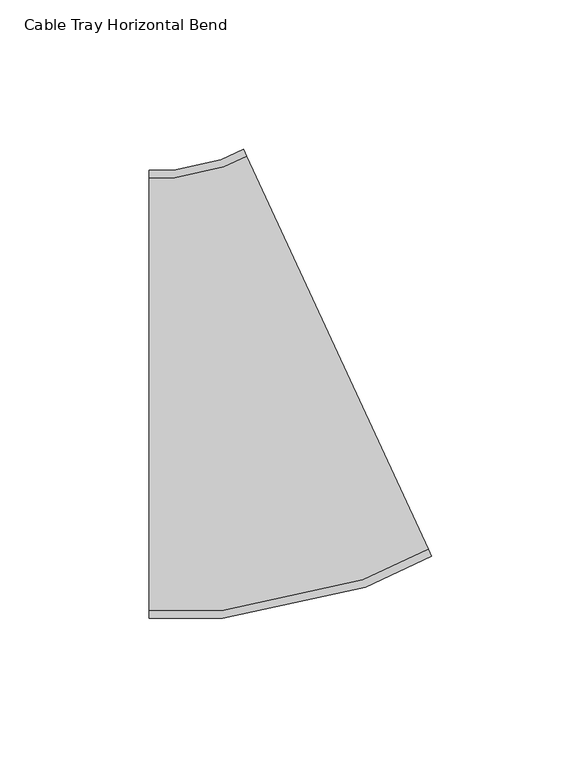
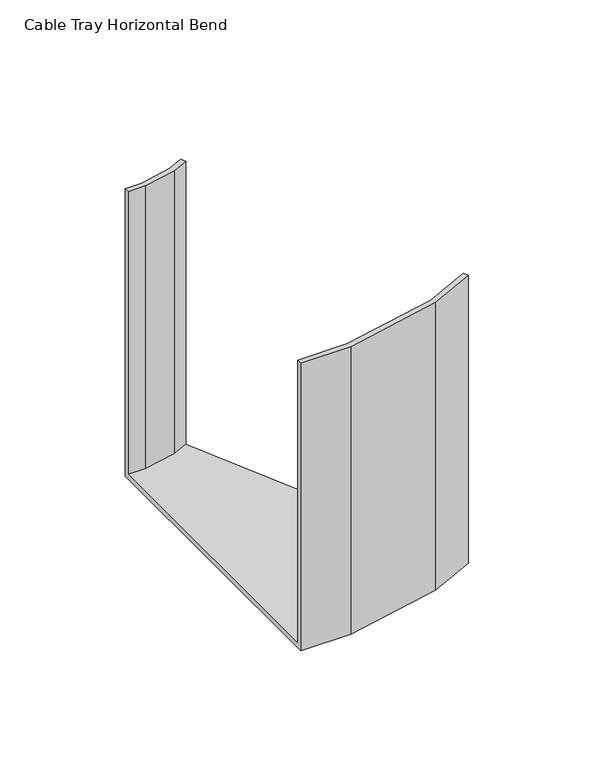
"""IFC4 building model written with IfcOpenShell, lengths in millimetres: cable carrier fitting geometry, Cable Tray Horizontal Bend : ELEC_ELV_TKG_N2402."""

from ifc_helpers import new_model, si_unit, origin, place, context, project, spatial, faceted_brep, source, transform, mapped, element, save


def cable_tray_horizontal_bend_871adc4e(model_context):
    return source(origin(), model_context, "Body", "Brep", [
        faceted_brep([(-33.036782, -75.0, -75.0), (-33.036782, -75.0, 75.0), (-33.036782, -72.46, 75.0), (-33.036782, -72.46, -72.46), (-33.036782, 72.46, -72.46), (-33.036782, 72.46, 75.0), (-33.036782, 75.0, 75.0), (-33.036782, 75.0, -75.0), (61.4883436, -54.1812936, -75.0), (-1.5284068, 81.9395688, -75.0), (-1.5284068, 81.9395688, 75.0), (-0.4613232, 79.6345889, 75.0), (-0.4613232, 79.6345889, -72.46), (60.4212599, -51.8763136, -72.46), (60.4212599, -51.8763136, 75.0), (61.4883436, -54.1812936, 75.0), (-8.5525989, -75.0, -75.0), (-8.5525989, -75.0, 75.0), (39.2696228, -64.4673846, 75.0), (38.4533638, -62.0462861, 75.0), (-8.8289982, -72.46, 75.0), (-8.8289982, -72.46, -72.46), (38.4533638, -62.0462861, -72.46), (-8.1183881, 76.0897733, -72.46), (-24.5989884, 72.46, -72.46), (-24.5989884, 72.46, 75.0), (-8.1183881, 76.0897733, 75.0), (-8.9346471, 78.5108718, 75.0), (-24.8753876, 75.0, 75.0), (-24.8753876, 75.0, -75.0), (-8.9346471, 78.5108718, -75.0), (39.2696228, -64.4673846, -75.0)], [[[0, 1, 2, 3, 4, 5, 6, 7]], [[8, 9, 10, 11, 12, 13, 14, 15]], [[1, 0, 16, 17]], [[2, 1, 17, 18, 15, 14, 19, 20]], [[3, 2, 20, 21]], [[4, 3, 21, 22, 13, 12, 23, 24]], [[5, 4, 24, 25]], [[6, 5, 25, 26, 11, 10, 27, 28]], [[7, 6, 28, 29]], [[0, 7, 29, 30, 9, 8, 31, 16]], [[17, 16, 31, 18]], [[21, 20, 19, 22]], [[25, 24, 23, 26]], [[29, 28, 27, 30]], [[18, 31, 8, 15]], [[22, 19, 14, 13]], [[26, 23, 12, 11]], [[30, 27, 10, 9]]]),
    ])


if __name__ == "__main__":
    model = new_model("IFC4")
    model_context = context("Model", 3, world=origin())
    ifc_project = project(units=[si_unit("LENGTHUNIT", "METRE", prefix="MILLI")], contexts=[model_context])
    site = spatial("IfcSite", under=ifc_project)
    building = spatial("IfcBuilding", under=site)
    placement = place(None, origin())
    cable_tray_horizontal_bend_shape = cable_tray_horizontal_bend_871adc4e(model_context)
    element("IfcCableCarrierFitting", 1, ObjectType="Cable Tray Horizontal Bend : ELEC_ELV_TKG_N2402", at=placement, inside=building, context=model_context, shape_type="MappedRepresentation", body=[
        mapped(cable_tray_horizontal_bend_shape, transform((0.0, 0.0, 0.0), x_axis=(1.0, 0.0, 0.0), y_axis=(0.0, 1.0, 0.0), z_axis=(0.0, 0.0, 1.0))),
    ])
    save(model, "model.ifc")
